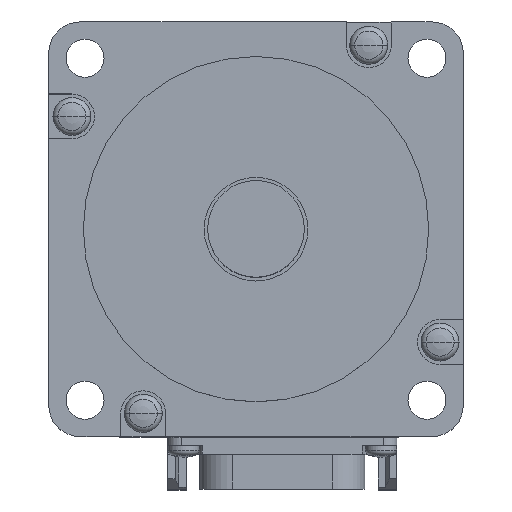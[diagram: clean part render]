
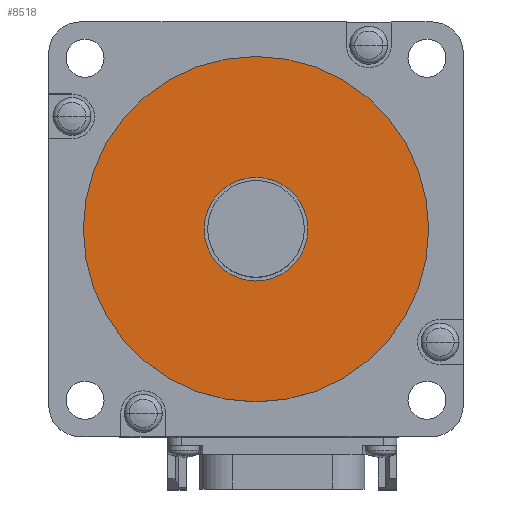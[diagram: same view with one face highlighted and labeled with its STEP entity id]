
A CAD part, top view. The second image highlights one B-rep face of the part: STEP entity #8518.
In plain terms, the highlighted planar face has unit normal (0, 0, 1).
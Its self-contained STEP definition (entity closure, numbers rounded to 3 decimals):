
#2077=CARTESIAN_POINT('',(0.,0.,3.));
#2078=DIRECTION('',(0.,0.,-1.));
#2079=DIRECTION('',(1.,0.,0.));
#2080=AXIS2_PLACEMENT_3D('',#2077,#2078,#2079);
#2082=CARTESIAN_POINT('',(0.,0.,3.));
#2083=DIRECTION('',(0.,0.,-1.));
#2084=DIRECTION('',(-1.,0.,0.));
#2085=AXIS2_PLACEMENT_3D('',#2082,#2083,#2084);
#2087=CARTESIAN_POINT('',(0.,0.,3.));
#2088=DIRECTION('',(0.,0.,1.));
#2089=DIRECTION('',(1.,0.,0.));
#2090=AXIS2_PLACEMENT_3D('',#2087,#2088,#2089);
#2092=CARTESIAN_POINT('',(0.,0.,3.));
#2093=DIRECTION('',(0.,0.,1.));
#2094=DIRECTION('',(-1.,0.,0.));
#2095=AXIS2_PLACEMENT_3D('',#2092,#2093,#2094);
#4644=CARTESIAN_POINT('',(25.,0.,3.));
#4645=VERTEX_POINT('',#4644);
#4646=CARTESIAN_POINT('',(-25.,0.,3.));
#4647=VERTEX_POINT('',#4646);
#5716=CARTESIAN_POINT('',(7.5,0.,3.));
#5717=CARTESIAN_POINT('',(-7.5,0.,3.));
#5718=VERTEX_POINT('',#5716);
#5719=VERTEX_POINT('',#5717);
#8502=CARTESIAN_POINT('',(0.,0.,3.));
#8503=DIRECTION('',(0.,0.,1.));
#8504=DIRECTION('',(1.,0.,0.));
#8505=AXIS2_PLACEMENT_3D('',#8502,#8503,#8504);
#8506=PLANE('',#8505);
#8507=ORIENTED_EDGE('',*,*,#8492,.T.);
#8509=ORIENTED_EDGE('',*,*,#8508,.T.);
#8510=EDGE_LOOP('',(#8507,#8509));
#8511=FACE_OUTER_BOUND('',#8510,.F.);
#8513=ORIENTED_EDGE('',*,*,#8512,.T.);
#8515=ORIENTED_EDGE('',*,*,#8514,.T.);
#8516=EDGE_LOOP('',(#8513,#8515));
#8517=FACE_BOUND('',#8516,.F.);
#8518=ADVANCED_FACE('',(#8511,#8517),#8506,.T.);
#2081=CIRCLE('',#2080,25.);
#2086=CIRCLE('',#2085,25.);
#2091=CIRCLE('',#2090,7.5);
#2096=CIRCLE('',#2095,7.5);
#8492=EDGE_CURVE('',#4645,#4647,#2081,.T.);
#8508=EDGE_CURVE('',#4647,#4645,#2086,.T.);
#8512=EDGE_CURVE('',#5718,#5719,#2091,.T.);
#8514=EDGE_CURVE('',#5719,#5718,#2096,.T.);
